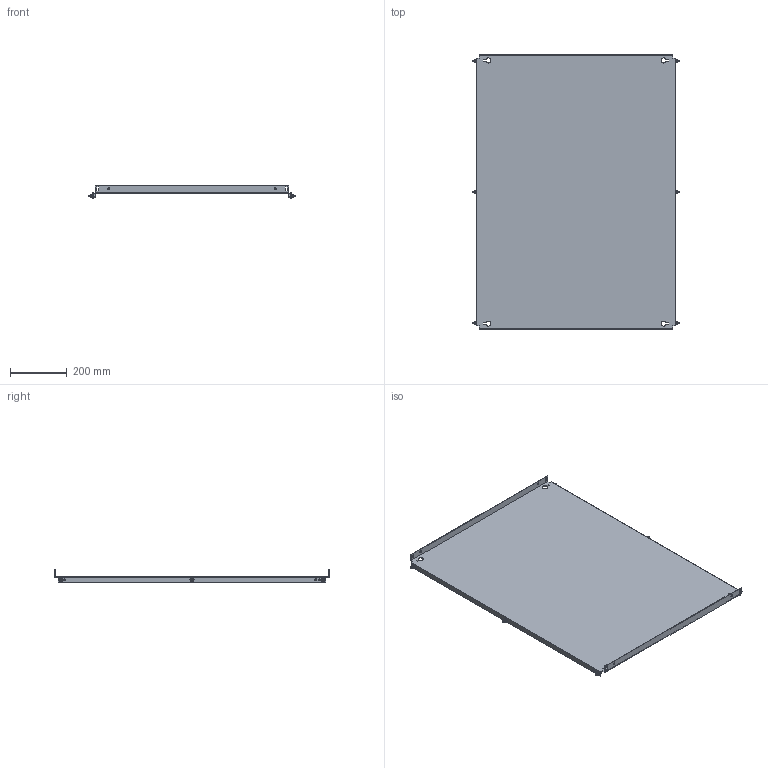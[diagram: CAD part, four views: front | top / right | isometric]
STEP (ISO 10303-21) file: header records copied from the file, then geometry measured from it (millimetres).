
FILE_DESCRIPTION(('Open CASCADE Model'),'2;1');
FILE_NAME('Open CASCADE Shape Model','2025-02-20T13:24:50',('Author'),( 'Open CASCADE'),'Open CASCADE STEP processor 7.8','Open CASCADE 7.8' ,'Unknown');
FILE_SCHEMA(('AUTOMOTIVE_DESIGN { 1 0 10303 214 1 1 1 1 }'));
Length unit declared in the file: millimetre
Products named in the file (4): Compound1; Solid1; Solid2; Solid3
Assembly tree (13 placements, depth 2):
  Compound1
    Solid1
    Solid2  x6
    Solid3  x6
Bounding box: 728 x 969 x 43 mm (x, y, z)
Volume: 1490780.6 mm3; surface area: 1497973.3 mm2
Topology: 13 solids, 13 shells, 422 faces, 1010 edges, 620 vertices
Faces by surface type: plane 192, cone 102, bspline 72, cylinder 38, torus 18
Full cylindrical faces by diameter (mm): 5 x6, 6 x12, 7 x16
Entity records: 5048 total; most frequent: CARTESIAN_POINT 1397, ORIENTED_EDGE 770, DIRECTION 664, EDGE_CURVE 385, VERTEX_POINT 250, AXIS2_PLACEMENT_3D 224, LINE 216, VECTOR 216
